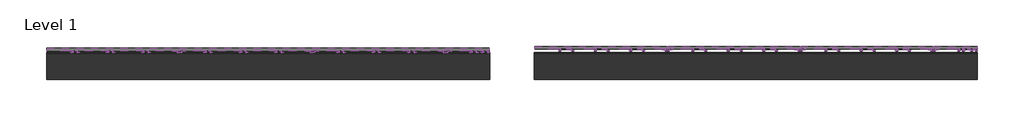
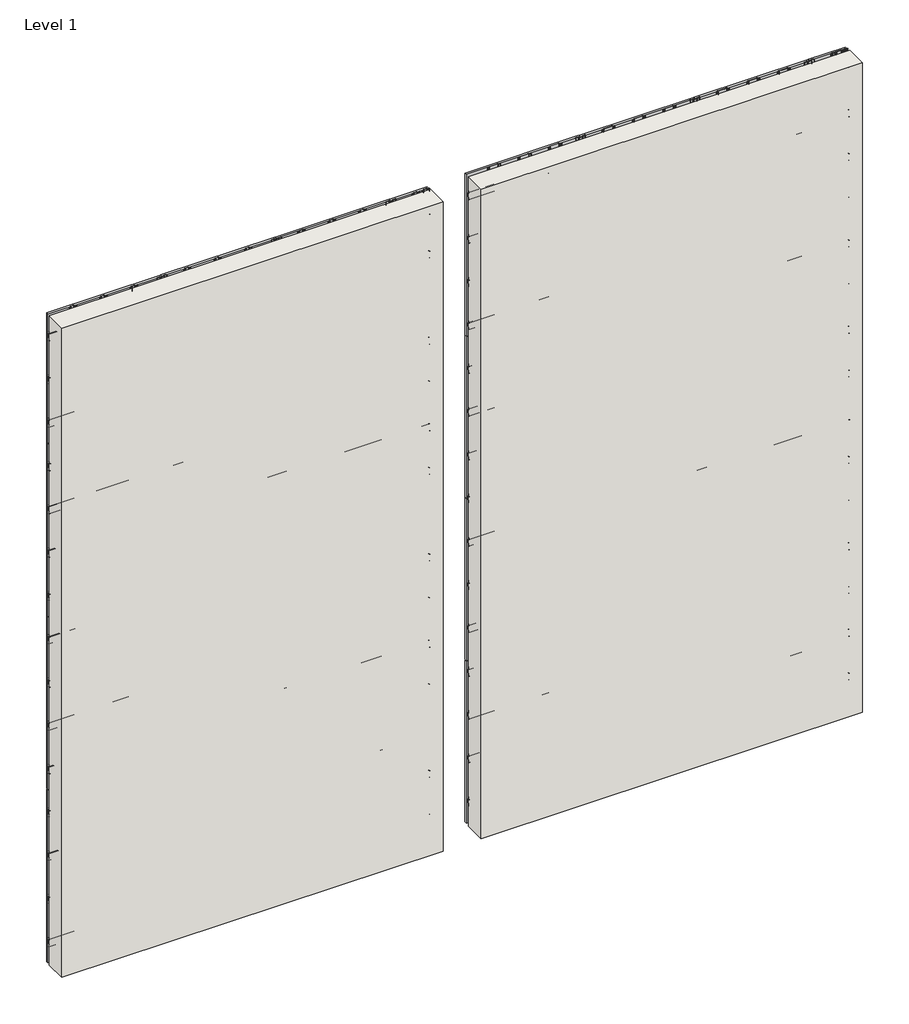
# One storey, incomplete: 32 plates, 24 members, 2 fasteners, 2 walls.
"""IFC4 building model written with IfcOpenShell, lengths in millimetres."""

from ifc_helpers import new_model, si_unit, origin, origin_with_axes, place, context, project, spatial, polyline, outline, extrude, transform, mapped, element, save
from components import fastener_49d822d4, rectangular_mullion_kws_revealrail_mullion_6a7aed80, rectangular_mullion_kws_revealrail_mullion_635518cf, rectangular_mullion_kws_revealrail_mullion_a2485246, plate_84a66804, plate_de720d52, plate_85d27ee4, plate_facd7c0a, plate_ec5ddb99, plate_5e6d6613

model = new_model("IFC4")

# Units and contexts
model_context = context("Model", 3, world=origin())
ifc_project = project(units=[si_unit("LENGTHUNIT", "METRE", prefix="MILLI")], contexts=[model_context])

# Site, building, storey
site = spatial("IfcSite", under=ifc_project)
building = spatial("IfcBuilding", under=site)
storey = spatial("IfcBuildingStorey", under=building, Name="Level 1", Elevation=0.0)

# Fasteners
placement = place(None, origin())
fastener_shape = fastener_49d822d4(model_context)
element("IfcFastener", 1, ObjectType="Knight-Wall-Systems_HCI-Girt : Knight-Wall-Systems_HCI-Girt", at=placement, inside=storey, context=model_context, shape_type="MappedRepresentation", body=[
    mapped(fastener_shape, transform((6411.976474, 7335.6586092, 0.0), x_axis=(0.0, 0.0, 1.0), y_axis=(0.0, 1.0, 0.0), z_axis=(-1.0, 0.0, 0.0))),
])
element("IfcFastener", 2, ObjectType="Knight-Wall-Systems_HCI-Girt : Knight-Wall-Systems_HCI-Girt", at=placement, inside=storey, context=model_context, shape_type="MappedRepresentation", body=[
    mapped(fastener_shape, transform((11999.976474, 7333.0520994, 28.2523933), x_axis=(0.0, 0.0, 1.0), y_axis=(0.0, 1.0, 0.0), z_axis=(-1.0, 0.0, 0.0))),
])

# Members
rectangular_mullion_kws_revealrail_mullion_shape = rectangular_mullion_kws_revealrail_mullion_6a7aed80(model_context)
element("IfcMember", 3, ObjectType="Rectangular Mullion : KWS_RevealRail_Mullion", at=placement, inside=storey, context=model_context, shape_type="MappedRepresentation", body=[
    mapped(rectangular_mullion_kws_revealrail_mullion_shape, transform((8443.9764743, 7373.7586092, 0.0), x_axis=(1.0, 0.0, 0.0), y_axis=(0.0, -1.0, 0.0), z_axis=(0.0, 0.0, -1.0))),
])
element("IfcMember", 4, ObjectType="Rectangular Mullion : KWS_RevealRail_Mullion", at=placement, inside=storey, context=model_context, shape_type="MappedRepresentation", body=[
    mapped(rectangular_mullion_kws_revealrail_mullion_shape, transform((9967.9764743, 7373.7586092, 0.0), x_axis=(1.0, 0.0, 0.0), y_axis=(0.0, -1.0, 0.0), z_axis=(0.0, 0.0, -1.0))),
])
element("IfcMember", 5, ObjectType="Rectangular Mullion : KWS_RevealRail_Mullion", at=placement, inside=storey, context=model_context, shape_type="MappedRepresentation", body=[
    mapped(rectangular_mullion_kws_revealrail_mullion_shape, transform((11491.9764743, 7373.7586092, 0.0), x_axis=(1.0, 0.0, 0.0), y_axis=(0.0, -1.0, 0.0), z_axis=(0.0, 0.0, -1.0))),
])
element("IfcMember", 6, ObjectType="Rectangular Mullion : KWS_RevealRail_Mullion", at=placement, inside=storey, context=model_context, shape_type="MappedRepresentation", body=[
    mapped(rectangular_mullion_kws_revealrail_mullion_shape, transform((8443.9764743, 7373.7586092, 2286.0), x_axis=(1.0, 0.0, 0.0), y_axis=(0.0, -1.0, 0.0), z_axis=(0.0, 0.0, -1.0))),
])
element("IfcMember", 7, ObjectType="Rectangular Mullion : KWS_RevealRail_Mullion", at=placement, inside=storey, context=model_context, shape_type="MappedRepresentation", body=[
    mapped(rectangular_mullion_kws_revealrail_mullion_shape, transform((9967.9764743, 7373.7586092, 2286.0), x_axis=(1.0, 0.0, 0.0), y_axis=(0.0, -1.0, 0.0), z_axis=(0.0, 0.0, -1.0))),
])
element("IfcMember", 8, ObjectType="Rectangular Mullion : KWS_RevealRail_Mullion", at=placement, inside=storey, context=model_context, shape_type="MappedRepresentation", body=[
    mapped(rectangular_mullion_kws_revealrail_mullion_shape, transform((11491.9764743, 7373.7586092, 2286.0), x_axis=(1.0, 0.0, 0.0), y_axis=(0.0, -1.0, 0.0), z_axis=(0.0, 0.0, -1.0))),
])
element("IfcMember", 9, ObjectType="Rectangular Mullion : KWS_RevealRail_Mullion", at=placement, inside=storey, context=model_context, shape_type="MappedRepresentation", body=[
    mapped(rectangular_mullion_kws_revealrail_mullion_shape, transform((8443.9764743, 7373.7586092, 4572.0), x_axis=(1.0, 0.0, 0.0), y_axis=(0.0, -1.0, 0.0), z_axis=(0.0, 0.0, -1.0))),
])
element("IfcMember", 10, ObjectType="Rectangular Mullion : KWS_RevealRail_Mullion", at=placement, inside=storey, context=model_context, shape_type="MappedRepresentation", body=[
    mapped(rectangular_mullion_kws_revealrail_mullion_shape, transform((9967.9764743, 7373.7586092, 4572.0), x_axis=(1.0, 0.0, 0.0), y_axis=(0.0, -1.0, 0.0), z_axis=(0.0, 0.0, -1.0))),
])
element("IfcMember", 11, ObjectType="Rectangular Mullion : KWS_RevealRail_Mullion", at=placement, inside=storey, context=model_context, shape_type="MappedRepresentation", body=[
    mapped(rectangular_mullion_kws_revealrail_mullion_shape, transform((11491.9764743, 7373.7586092, 4572.0), x_axis=(1.0, 0.0, 0.0), y_axis=(0.0, -1.0, 0.0), z_axis=(0.0, 0.0, -1.0))),
])
element("IfcMember", 12, ObjectType="Rectangular Mullion : KWS_RevealRail_Mullion", at=placement, inside=storey, context=model_context, shape_type="MappedRepresentation", body=[
    mapped(rectangular_mullion_kws_revealrail_mullion_shape, transform((8443.9764743, 7373.7586092, 6858.0), x_axis=(1.0, 0.0, 0.0), y_axis=(0.0, -1.0, 0.0), z_axis=(0.0, 0.0, -1.0))),
])
element("IfcMember", 13, ObjectType="Rectangular Mullion : KWS_RevealRail_Mullion", at=placement, inside=storey, context=model_context, shape_type="MappedRepresentation", body=[
    mapped(rectangular_mullion_kws_revealrail_mullion_shape, transform((9967.9764743, 7373.7586092, 6858.0), x_axis=(1.0, 0.0, 0.0), y_axis=(0.0, -1.0, 0.0), z_axis=(0.0, 0.0, -1.0))),
])
element("IfcMember", 14, ObjectType="Rectangular Mullion : KWS_RevealRail_Mullion", at=placement, inside=storey, context=model_context, shape_type="MappedRepresentation", body=[
    mapped(rectangular_mullion_kws_revealrail_mullion_shape, transform((11491.9764743, 7373.7586092, 6858.0), x_axis=(1.0, 0.0, 0.0), y_axis=(0.0, -1.0, 0.0), z_axis=(0.0, 0.0, -1.0))),
])
rectangular_mullion_kws_revealrail_mullion_2_shape = rectangular_mullion_kws_revealrail_mullion_635518cf(model_context)
element("IfcMember", 15, ObjectType="Rectangular Mullion : KWS_RevealRail_Mullion", at=placement, inside=storey, context=model_context, shape_type="MappedRepresentation", body=[
    mapped(rectangular_mullion_kws_revealrail_mullion_2_shape, transform((2855.9764743, 7354.7086092, 0.0), x_axis=(1.0, 0.0, 0.0), y_axis=(0.0, -1.0, 0.0), z_axis=(0.0, 0.0, -1.0))),
])
element("IfcMember", 16, ObjectType="Rectangular Mullion : KWS_RevealRail_Mullion", at=placement, inside=storey, context=model_context, shape_type="MappedRepresentation", body=[
    mapped(rectangular_mullion_kws_revealrail_mullion_2_shape, transform((4379.9764743, 7354.7086092, 0.0), x_axis=(1.0, 0.0, 0.0), y_axis=(0.0, -1.0, 0.0), z_axis=(0.0, 0.0, -1.0))),
])
element("IfcMember", 17, ObjectType="Rectangular Mullion : KWS_RevealRail_Mullion", at=placement, inside=storey, context=model_context, shape_type="MappedRepresentation", body=[
    mapped(rectangular_mullion_kws_revealrail_mullion_2_shape, transform((5903.9764743, 7354.7086092, 0.0), x_axis=(1.0, 0.0, 0.0), y_axis=(0.0, -1.0, 0.0), z_axis=(0.0, 0.0, -1.0))),
])
element("IfcMember", 18, ObjectType="Rectangular Mullion : KWS_RevealRail_Mullion", at=placement, inside=storey, context=model_context, shape_type="MappedRepresentation", body=[
    mapped(rectangular_mullion_kws_revealrail_mullion_2_shape, transform((2855.9764743, 7354.7086092, 2438.4), x_axis=(1.0, 0.0, 0.0), y_axis=(0.0, -1.0, 0.0), z_axis=(0.0, 0.0, -1.0))),
])
element("IfcMember", 19, ObjectType="Rectangular Mullion : KWS_RevealRail_Mullion", at=placement, inside=storey, context=model_context, shape_type="MappedRepresentation", body=[
    mapped(rectangular_mullion_kws_revealrail_mullion_2_shape, transform((4379.9764743, 7354.7086092, 2438.4), x_axis=(1.0, 0.0, 0.0), y_axis=(0.0, -1.0, 0.0), z_axis=(0.0, 0.0, -1.0))),
])
element("IfcMember", 20, ObjectType="Rectangular Mullion : KWS_RevealRail_Mullion", at=placement, inside=storey, context=model_context, shape_type="MappedRepresentation", body=[
    mapped(rectangular_mullion_kws_revealrail_mullion_2_shape, transform((5903.9764743, 7354.7086092, 2438.4), x_axis=(1.0, 0.0, 0.0), y_axis=(0.0, -1.0, 0.0), z_axis=(0.0, 0.0, -1.0))),
])
element("IfcMember", 21, ObjectType="Rectangular Mullion : KWS_RevealRail_Mullion", at=placement, inside=storey, context=model_context, shape_type="MappedRepresentation", body=[
    mapped(rectangular_mullion_kws_revealrail_mullion_2_shape, transform((2855.9764743, 7354.7086092, 4876.8), x_axis=(1.0, 0.0, 0.0), y_axis=(0.0, -1.0, 0.0), z_axis=(0.0, 0.0, -1.0))),
])
element("IfcMember", 22, ObjectType="Rectangular Mullion : KWS_RevealRail_Mullion", at=placement, inside=storey, context=model_context, shape_type="MappedRepresentation", body=[
    mapped(rectangular_mullion_kws_revealrail_mullion_2_shape, transform((4379.9764743, 7354.7086092, 4876.8), x_axis=(1.0, 0.0, 0.0), y_axis=(0.0, -1.0, 0.0), z_axis=(0.0, 0.0, -1.0))),
])
element("IfcMember", 23, ObjectType="Rectangular Mullion : KWS_RevealRail_Mullion", at=placement, inside=storey, context=model_context, shape_type="MappedRepresentation", body=[
    mapped(rectangular_mullion_kws_revealrail_mullion_2_shape, transform((5903.9764743, 7354.7086092, 4876.8), x_axis=(1.0, 0.0, 0.0), y_axis=(0.0, -1.0, 0.0), z_axis=(0.0, 0.0, -1.0))),
])
rectangular_mullion_kws_revealrail_mullion_3_shape = rectangular_mullion_kws_revealrail_mullion_a2485246(model_context)
element("IfcMember", 24, ObjectType="Rectangular Mullion : KWS_RevealRail_Mullion", at=placement, inside=storey, context=model_context, shape_type="MappedRepresentation", body=[
    mapped(rectangular_mullion_kws_revealrail_mullion_3_shape, transform((2855.9764743, 7354.7086092, 7315.2), x_axis=(1.0, 0.0, 0.0), y_axis=(0.0, -1.0, 0.0), z_axis=(0.0, 0.0, -1.0))),
])
element("IfcMember", 25, ObjectType="Rectangular Mullion : KWS_RevealRail_Mullion", at=placement, inside=storey, context=model_context, shape_type="MappedRepresentation", body=[
    mapped(rectangular_mullion_kws_revealrail_mullion_3_shape, transform((4379.9764743, 7354.7086092, 7315.2), x_axis=(1.0, 0.0, 0.0), y_axis=(0.0, -1.0, 0.0), z_axis=(0.0, 0.0, -1.0))),
])
element("IfcMember", 26, ObjectType="Rectangular Mullion : KWS_RevealRail_Mullion", at=placement, inside=storey, context=model_context, shape_type="MappedRepresentation", body=[
    mapped(rectangular_mullion_kws_revealrail_mullion_3_shape, transform((5903.9764743, 7354.7086092, 7315.2), x_axis=(1.0, 0.0, 0.0), y_axis=(0.0, -1.0, 0.0), z_axis=(0.0, 0.0, -1.0))),
])

# Plates
plate_shape = plate_84a66804(model_context)
element("IfcPlate", 27, ObjectType="KWS_Generic-Panel_w_PanelRail-V : 2\" x 3/4\"", at=placement, inside=storey, context=model_context, shape_type="MappedRepresentation", body=[
    mapped(plate_shape, transform((2093.9764741, 7354.7086092, 0.0), x_axis=(1.0, 0.0, 0.0), y_axis=(0.0, 1.0, 0.0), z_axis=(0.0, 0.0, 1.0))),
])
element("IfcPlate", 28, ObjectType="KWS_Generic-Panel_w_PanelRail-V : 2\" x 3/4\"", at=placement, inside=storey, context=model_context, shape_type="MappedRepresentation", body=[
    mapped(plate_shape, transform((3617.9764743, 7354.7086092, 0.0), x_axis=(1.0, 0.0, 0.0), y_axis=(0.0, 1.0, 0.0), z_axis=(0.0, 0.0, 1.0))),
])
element("IfcPlate", 29, ObjectType="KWS_Generic-Panel_w_PanelRail-V : 2\" x 3/4\"", at=placement, inside=storey, context=model_context, shape_type="MappedRepresentation", body=[
    mapped(plate_shape, transform((5141.9764743, 7354.7086092, 0.0), x_axis=(1.0, 0.0, 0.0), y_axis=(0.0, 1.0, 0.0), z_axis=(0.0, 0.0, 1.0))),
])
element("IfcPlate", 30, ObjectType="KWS_Generic-Panel_w_PanelRail-V : 2\" x 3/4\"", at=placement, inside=storey, context=model_context, shape_type="MappedRepresentation", body=[
    mapped(plate_shape, transform((2093.9764741, 7354.7086092, 2438.4), x_axis=(1.0, 0.0, 0.0), y_axis=(0.0, 1.0, 0.0), z_axis=(0.0, 0.0, 1.0))),
])
element("IfcPlate", 31, ObjectType="KWS_Generic-Panel_w_PanelRail-V : 2\" x 3/4\"", at=placement, inside=storey, context=model_context, shape_type="MappedRepresentation", body=[
    mapped(plate_shape, transform((3617.9764743, 7354.7086092, 2438.4), x_axis=(1.0, 0.0, 0.0), y_axis=(0.0, 1.0, 0.0), z_axis=(0.0, 0.0, 1.0))),
])
element("IfcPlate", 32, ObjectType="KWS_Generic-Panel_w_PanelRail-V : 2\" x 3/4\"", at=placement, inside=storey, context=model_context, shape_type="MappedRepresentation", body=[
    mapped(plate_shape, transform((5141.9764743, 7354.7086092, 2438.4), x_axis=(1.0, 0.0, 0.0), y_axis=(0.0, 1.0, 0.0), z_axis=(0.0, 0.0, 1.0))),
])
element("IfcPlate", 33, ObjectType="KWS_Generic-Panel_w_PanelRail-V : 2\" x 3/4\"", at=placement, inside=storey, context=model_context, shape_type="MappedRepresentation", body=[
    mapped(plate_shape, transform((2093.9764741, 7354.7086092, 4876.8), x_axis=(1.0, 0.0, 0.0), y_axis=(0.0, 1.0, 0.0), z_axis=(0.0, 0.0, 1.0))),
])
element("IfcPlate", 34, ObjectType="KWS_Generic-Panel_w_PanelRail-V : 2\" x 3/4\"", at=placement, inside=storey, context=model_context, shape_type="MappedRepresentation", body=[
    mapped(plate_shape, transform((3617.9764743, 7354.7086092, 4876.8), x_axis=(1.0, 0.0, 0.0), y_axis=(0.0, 1.0, 0.0), z_axis=(0.0, 0.0, 1.0))),
])
element("IfcPlate", 35, ObjectType="KWS_Generic-Panel_w_PanelRail-V : 2\" x 3/4\"", at=placement, inside=storey, context=model_context, shape_type="MappedRepresentation", body=[
    mapped(plate_shape, transform((5141.9764743, 7354.7086092, 4876.8), x_axis=(1.0, 0.0, 0.0), y_axis=(0.0, 1.0, 0.0), z_axis=(0.0, 0.0, 1.0))),
])
plate_2_shape = plate_de720d52(model_context)
element("IfcPlate", 36, ObjectType="KWS_Generic-Panel_w_PanelRail-V : 2\" x 3/4\"", at=placement, inside=storey, context=model_context, shape_type="MappedRepresentation", body=[
    mapped(plate_2_shape, transform((6157.9764741, 7354.7086092, 0.0), x_axis=(1.0, 0.0, 0.0), y_axis=(0.0, 1.0, 0.0), z_axis=(0.0, 0.0, 1.0))),
])
element("IfcPlate", 37, ObjectType="KWS_Generic-Panel_w_PanelRail-V : 2\" x 3/4\"", at=placement, inside=storey, context=model_context, shape_type="MappedRepresentation", body=[
    mapped(plate_2_shape, transform((6157.9764741, 7354.7086092, 2438.4), x_axis=(1.0, 0.0, 0.0), y_axis=(0.0, 1.0, 0.0), z_axis=(0.0, 0.0, 1.0))),
])
element("IfcPlate", 38, ObjectType="KWS_Generic-Panel_w_PanelRail-V : 2\" x 3/4\"", at=placement, inside=storey, context=model_context, shape_type="MappedRepresentation", body=[
    mapped(plate_2_shape, transform((6157.9764741, 7354.7086092, 4876.8), x_axis=(1.0, 0.0, 0.0), y_axis=(0.0, 1.0, 0.0), z_axis=(0.0, 0.0, 1.0))),
])
plate_3_shape = plate_85d27ee4(model_context)
element("IfcPlate", 39, ObjectType="KWS_Generic-Panel_w_PanelRail-V : 2\" x 3/4\"", at=placement, inside=storey, context=model_context, shape_type="MappedRepresentation", body=[
    mapped(plate_3_shape, transform((2093.9764741, 7354.7086092, 7315.2), x_axis=(1.0, 0.0, 0.0), y_axis=(0.0, 1.0, 0.0), z_axis=(0.0, 0.0, 1.0))),
])
element("IfcPlate", 40, ObjectType="KWS_Generic-Panel_w_PanelRail-V : 2\" x 3/4\"", at=placement, inside=storey, context=model_context, shape_type="MappedRepresentation", body=[
    mapped(plate_3_shape, transform((3617.9764743, 7354.7086092, 7315.2), x_axis=(1.0, 0.0, 0.0), y_axis=(0.0, 1.0, 0.0), z_axis=(0.0, 0.0, 1.0))),
])
element("IfcPlate", 41, ObjectType="KWS_Generic-Panel_w_PanelRail-V : 2\" x 3/4\"", at=placement, inside=storey, context=model_context, shape_type="MappedRepresentation", body=[
    mapped(plate_3_shape, transform((5141.9764743, 7354.7086092, 7315.2), x_axis=(1.0, 0.0, 0.0), y_axis=(0.0, 1.0, 0.0), z_axis=(0.0, 0.0, 1.0))),
])
plate_4_shape = plate_facd7c0a(model_context)
element("IfcPlate", 42, ObjectType="KWS_Generic-Panel_w_PanelRail-V : 2\" x 3/4\"", at=placement, inside=storey, context=model_context, shape_type="MappedRepresentation", body=[
    mapped(plate_4_shape, transform((6157.9764741, 7354.7086092, 7315.2), x_axis=(1.0, 0.0, 0.0), y_axis=(0.0, 1.0, 0.0), z_axis=(0.0, 0.0, 1.0))),
])
plate_5_shape = plate_ec5ddb99(model_context)
element("IfcPlate", 43, ObjectType="KWS_Generic-Panel_w_PanelRail-V : 5\" x 3/4\"", at=placement, inside=storey, context=model_context, shape_type="MappedRepresentation", body=[
    mapped(plate_5_shape, transform((7681.9764741, 7373.7586092, 0.0), x_axis=(1.0, 0.0, 0.0), y_axis=(0.0, 1.0, 0.0), z_axis=(0.0, 0.0, 1.0))),
])
element("IfcPlate", 44, ObjectType="KWS_Generic-Panel_w_PanelRail-V : 5\" x 3/4\"", at=placement, inside=storey, context=model_context, shape_type="MappedRepresentation", body=[
    mapped(plate_5_shape, transform((9205.9764743, 7373.7586092, 0.0), x_axis=(1.0, 0.0, 0.0), y_axis=(0.0, 1.0, 0.0), z_axis=(0.0, 0.0, 1.0))),
])
element("IfcPlate", 45, ObjectType="KWS_Generic-Panel_w_PanelRail-V : 5\" x 3/4\"", at=placement, inside=storey, context=model_context, shape_type="MappedRepresentation", body=[
    mapped(plate_5_shape, transform((10729.9764743, 7373.7586092, 0.0), x_axis=(1.0, 0.0, 0.0), y_axis=(0.0, 1.0, 0.0), z_axis=(0.0, 0.0, 1.0))),
])
element("IfcPlate", 46, ObjectType="KWS_Generic-Panel_w_PanelRail-V : 5\" x 3/4\"", at=placement, inside=storey, context=model_context, shape_type="MappedRepresentation", body=[
    mapped(plate_5_shape, transform((7681.9764741, 7373.7586092, 2286.0), x_axis=(1.0, 0.0, 0.0), y_axis=(0.0, 1.0, 0.0), z_axis=(0.0, 0.0, 1.0))),
])
element("IfcPlate", 47, ObjectType="KWS_Generic-Panel_w_PanelRail-V : 5\" x 3/4\"", at=placement, inside=storey, context=model_context, shape_type="MappedRepresentation", body=[
    mapped(plate_5_shape, transform((9205.9764743, 7373.7586092, 2286.0), x_axis=(1.0, 0.0, 0.0), y_axis=(0.0, 1.0, 0.0), z_axis=(0.0, 0.0, 1.0))),
])
element("IfcPlate", 48, ObjectType="KWS_Generic-Panel_w_PanelRail-V : 5\" x 3/4\"", at=placement, inside=storey, context=model_context, shape_type="MappedRepresentation", body=[
    mapped(plate_5_shape, transform((10729.9764743, 7373.7586092, 2286.0), x_axis=(1.0, 0.0, 0.0), y_axis=(0.0, 1.0, 0.0), z_axis=(0.0, 0.0, 1.0))),
])
element("IfcPlate", 49, ObjectType="KWS_Generic-Panel_w_PanelRail-V : 5\" x 3/4\"", at=placement, inside=storey, context=model_context, shape_type="MappedRepresentation", body=[
    mapped(plate_5_shape, transform((7681.9764741, 7373.7586092, 4572.0), x_axis=(1.0, 0.0, 0.0), y_axis=(0.0, 1.0, 0.0), z_axis=(0.0, 0.0, 1.0))),
])
element("IfcPlate", 50, ObjectType="KWS_Generic-Panel_w_PanelRail-V : 5\" x 3/4\"", at=placement, inside=storey, context=model_context, shape_type="MappedRepresentation", body=[
    mapped(plate_5_shape, transform((9205.9764743, 7373.7586092, 4572.0), x_axis=(1.0, 0.0, 0.0), y_axis=(0.0, 1.0, 0.0), z_axis=(0.0, 0.0, 1.0))),
])
element("IfcPlate", 51, ObjectType="KWS_Generic-Panel_w_PanelRail-V : 5\" x 3/4\"", at=placement, inside=storey, context=model_context, shape_type="MappedRepresentation", body=[
    mapped(plate_5_shape, transform((10729.9764743, 7373.7586092, 4572.0), x_axis=(1.0, 0.0, 0.0), y_axis=(0.0, 1.0, 0.0), z_axis=(0.0, 0.0, 1.0))),
])
element("IfcPlate", 52, ObjectType="KWS_Generic-Panel_w_PanelRail-V : 5\" x 3/4\"", at=placement, inside=storey, context=model_context, shape_type="MappedRepresentation", body=[
    mapped(plate_5_shape, transform((7681.9764741, 7373.7586092, 6858.0), x_axis=(1.0, 0.0, 0.0), y_axis=(0.0, 1.0, 0.0), z_axis=(0.0, 0.0, 1.0))),
])
element("IfcPlate", 53, ObjectType="KWS_Generic-Panel_w_PanelRail-V : 5\" x 3/4\"", at=placement, inside=storey, context=model_context, shape_type="MappedRepresentation", body=[
    mapped(plate_5_shape, transform((9205.9764743, 7373.7586092, 6858.0), x_axis=(1.0, 0.0, 0.0), y_axis=(0.0, 1.0, 0.0), z_axis=(0.0, 0.0, 1.0))),
])
element("IfcPlate", 54, ObjectType="KWS_Generic-Panel_w_PanelRail-V : 5\" x 3/4\"", at=placement, inside=storey, context=model_context, shape_type="MappedRepresentation", body=[
    mapped(plate_5_shape, transform((10729.9764743, 7373.7586092, 6858.0), x_axis=(1.0, 0.0, 0.0), y_axis=(0.0, 1.0, 0.0), z_axis=(0.0, 0.0, 1.0))),
])
plate_6_shape = plate_5e6d6613(model_context)
element("IfcPlate", 55, ObjectType="KWS_Generic-Panel_w_PanelRail-V : 5\" x 3/4\"", at=placement, inside=storey, context=model_context, shape_type="MappedRepresentation", body=[
    mapped(plate_6_shape, transform((11745.9764741, 7373.7586092, 0.0), x_axis=(1.0, 0.0, 0.0), y_axis=(0.0, 1.0, 0.0), z_axis=(0.0, 0.0, 1.0))),
])
element("IfcPlate", 56, ObjectType="KWS_Generic-Panel_w_PanelRail-V : 5\" x 3/4\"", at=placement, inside=storey, context=model_context, shape_type="MappedRepresentation", body=[
    mapped(plate_6_shape, transform((11745.9764741, 7373.7586092, 2286.0), x_axis=(1.0, 0.0, 0.0), y_axis=(0.0, 1.0, 0.0), z_axis=(0.0, 0.0, 1.0))),
])
element("IfcPlate", 57, ObjectType="KWS_Generic-Panel_w_PanelRail-V : 5\" x 3/4\"", at=placement, inside=storey, context=model_context, shape_type="MappedRepresentation", body=[
    mapped(plate_6_shape, transform((11745.9764741, 7373.7586092, 4572.0), x_axis=(1.0, 0.0, 0.0), y_axis=(0.0, 1.0, 0.0), z_axis=(0.0, 0.0, 1.0))),
])
element("IfcPlate", 58, ObjectType="KWS_Generic-Panel_w_PanelRail-V : 5\" x 3/4\"", at=placement, inside=storey, context=model_context, shape_type="MappedRepresentation", body=[
    mapped(plate_6_shape, transform((11745.9764741, 7373.7586092, 6858.0), x_axis=(1.0, 0.0, 0.0), y_axis=(0.0, 1.0, 0.0), z_axis=(0.0, 0.0, 1.0))),
])

# Walls
element("IfcWall", 59, ObjectType="Exterior - Backup Wall System - Concrete Block", at=placement, inside=storey, context=model_context, shape_type="SweptSolid", body=[
    extrude(outline(polyline([(6411.976474, 7046.7336092), (1331.976474, 7046.7336092), (1331.976474, 7335.6586092), (6411.976474, 7335.6586092), (6411.976474, 7046.7336092)])), origin_with_axes(), (0.0, 0.0, 1.0), 9144.0),
])
element("IfcWall", 60, ObjectType="Exterior - Backup Wall System - Concrete Block", at=placement, inside=storey, context=model_context, shape_type="SweptSolid", body=[
    extrude(outline(polyline([(11999.976474, 7046.7336092), (6919.976474, 7046.7336092), (6919.976474, 7335.6586092), (11999.976474, 7335.6586092), (11999.976474, 7046.7336092)])), origin_with_axes(), (0.0, 0.0, 1.0), 9144.0),
])

save(model, "model.ifc")
